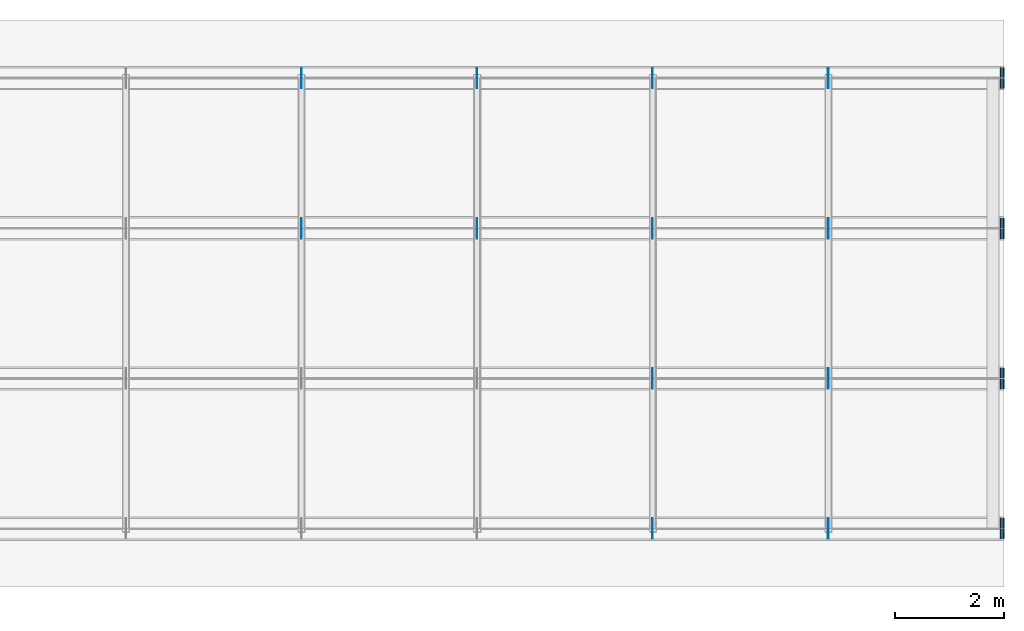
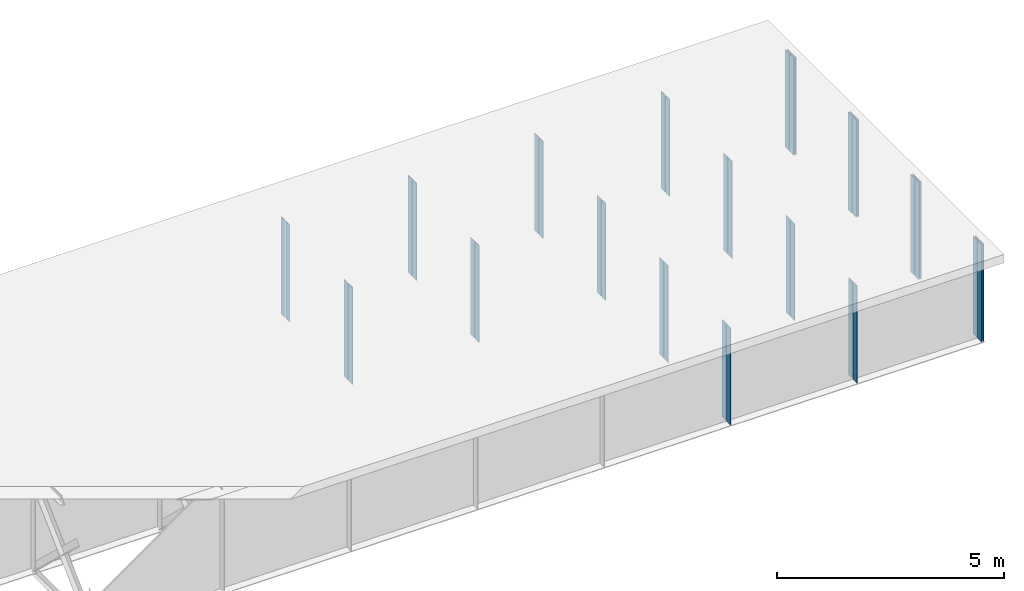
# One storey, part 13 of 13: 40 plates.
"""IFC4 building model written with IfcOpenShell, lengths in metres."""

from ifc_helpers import new_model, si_unit, frame, origin, origin_with_axes, origin_2d_with_axis, place, context, subcontext, project, spatial, rectangle, extrude, element, save


model = new_model("IFC4")

# Units and contexts
model_context = context("Model", 3, precision=1e-05, world=origin())
body_context = subcontext(model_context, "Body", "Model", "MODEL_VIEW")
ifc_project = project(units=[si_unit("LENGTHUNIT", "METRE"), si_unit("AREAUNIT", "SQUARE_METRE"), si_unit("VOLUMEUNIT", "CUBIC_METRE"), si_unit("PLANEANGLEUNIT", "RADIAN")], contexts=[model_context])

# Site, building, storey
site_placement = place(None, origin_with_axes())
site = spatial("IfcSite", under=ifc_project, at=site_placement, Name="Default Site")
building_placement = place(site_placement, origin_with_axes())
building = spatial("IfcBuilding", under=site, at=building_placement, Name="Bridge Structure")
storey_placement = place(building_placement, origin_with_axes())
storey = spatial("IfcBuildingStorey", under=building, at=storey_placement, Name="Superstructure")

# Plates
for number, where, z_axis, x_axis, name in (
    (1, (38.568, -4.02575, -1.305), (0.0, 0.0, 1.0), (1.0, 0.0, 0.0), "Intermediate Stiffener 1"),
    (2, (38.568, -4.2242500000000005, -1.305), (0.0, 0.0, 1.0), (1.0, 0.0, 0.0), "Intermediate Stiffener 1"),
    (3, (41.782000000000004, -4.02575, -1.305), (0.0, 0.0, 1.0), (1.0, 0.0, 0.0), "Intermediate Stiffener 1"),
    (4, (41.782000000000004, -4.2242500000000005, -1.305), (0.0, 0.0, 1.0), (1.0, 0.0, 0.0), "Intermediate Stiffener 1"),
):
    element("IfcPlate", number, at=place(storey_placement, frame(where, z_axis=z_axis, x_axis=x_axis)), inside=storey, Name=name, context=body_context, shape_type="SweptSolid", body=[
        extrude(rectangle(XDim=0.012, YDim=0.1765, at=origin_2d_with_axis()), origin_with_axes(), (0.0, 0.0, 1.0), 2.61),
    ])
for number, where, z_axis, x_axis, name in (
    (5, (44.99, -4.02575, -1.305), (0.0, 0.0, 1.0), (1.0, 0.0, 0.0), "End Stiffener 1"),
    (6, (44.99, -4.2242500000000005, -1.305), (0.0, 0.0, 1.0), (1.0, 0.0, 0.0), "End Stiffener 1"),
    (7, (44.94, -4.02575, -1.305), (0.0, 0.0, 1.0), (1.0, 0.0, 0.0), "End Stiffener 1"),
    (8, (44.94, -4.2242500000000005, -1.305), (0.0, 0.0, 1.0), (1.0, 0.0, 0.0), "End Stiffener 1"),
):
    element("IfcPlate", number, at=place(storey_placement, frame(where, z_axis=z_axis, x_axis=x_axis)), inside=storey, Name=name, context=body_context, shape_type="SweptSolid", body=[
        extrude(rectangle(XDim=0.02, YDim=0.1765, at=origin_2d_with_axis()), origin_with_axes(), (0.0, 0.0, 1.0), 2.61),
    ])
for number, where, z_axis, x_axis, name in (
    (9, (38.568, -1.27575, -1.305), (0.0, 0.0, 1.0), (1.0, 0.0, 0.0), "Intermediate Stiffener 2"),
    (10, (38.568, -1.47425, -1.305), (0.0, 0.0, 1.0), (1.0, 0.0, 0.0), "Intermediate Stiffener 2"),
    (11, (41.782000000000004, -1.27575, -1.305), (0.0, 0.0, 1.0), (1.0, 0.0, 0.0), "Intermediate Stiffener 2"),
    (12, (41.782000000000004, -1.47425, -1.305), (0.0, 0.0, 1.0), (1.0, 0.0, 0.0), "Intermediate Stiffener 2"),
):
    element("IfcPlate", number, at=place(storey_placement, frame(where, z_axis=z_axis, x_axis=x_axis)), inside=storey, Name=name, context=body_context, shape_type="SweptSolid", body=[
        extrude(rectangle(XDim=0.012, YDim=0.1765, at=origin_2d_with_axis()), origin_with_axes(), (0.0, 0.0, 1.0), 2.61),
    ])
for number, where, z_axis, x_axis, name in (
    (13, (44.99, -1.27575, -1.305), (0.0, 0.0, 1.0), (1.0, 0.0, 0.0), "End Stiffener 2"),
    (14, (44.99, -1.47425, -1.305), (0.0, 0.0, 1.0), (1.0, 0.0, 0.0), "End Stiffener 2"),
    (15, (44.94, -1.27575, -1.305), (0.0, 0.0, 1.0), (1.0, 0.0, 0.0), "End Stiffener 2"),
    (16, (44.94, -1.47425, -1.305), (0.0, 0.0, 1.0), (1.0, 0.0, 0.0), "End Stiffener 2"),
):
    element("IfcPlate", number, at=place(storey_placement, frame(where, z_axis=z_axis, x_axis=x_axis)), inside=storey, Name=name, context=body_context, shape_type="SweptSolid", body=[
        extrude(rectangle(XDim=0.02, YDim=0.1765, at=origin_2d_with_axis()), origin_with_axes(), (0.0, 0.0, 1.0), 2.61),
    ])
for number, where, z_axis, x_axis, name in (
    (17, (32.14, 1.47425, -1.305), (0.0, 0.0, 1.0), (1.0, 0.0, 0.0), "Intermediate Stiffener 3"),
    (18, (32.14, 1.27575, -1.305), (0.0, 0.0, 1.0), (1.0, 0.0, 0.0), "Intermediate Stiffener 3"),
    (19, (35.354, 1.47425, -1.305), (0.0, 0.0, 1.0), (1.0, 0.0, 0.0), "Intermediate Stiffener 3"),
    (20, (35.354, 1.27575, -1.305), (0.0, 0.0, 1.0), (1.0, 0.0, 0.0), "Intermediate Stiffener 3"),
    (21, (38.568, 1.47425, -1.305), (0.0, 0.0, 1.0), (1.0, 0.0, 0.0), "Intermediate Stiffener 3"),
    (22, (38.568, 1.27575, -1.305), (0.0, 0.0, 1.0), (1.0, 0.0, 0.0), "Intermediate Stiffener 3"),
    (23, (41.782000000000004, 1.47425, -1.305), (0.0, 0.0, 1.0), (1.0, 0.0, 0.0), "Intermediate Stiffener 3"),
    (24, (41.782000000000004, 1.27575, -1.305), (0.0, 0.0, 1.0), (1.0, 0.0, 0.0), "Intermediate Stiffener 3"),
):
    element("IfcPlate", number, at=place(storey_placement, frame(where, z_axis=z_axis, x_axis=x_axis)), inside=storey, Name=name, context=body_context, shape_type="SweptSolid", body=[
        extrude(rectangle(XDim=0.012, YDim=0.1765, at=origin_2d_with_axis()), origin_with_axes(), (0.0, 0.0, 1.0), 2.61),
    ])
for number, where, z_axis, x_axis, name in (
    (25, (44.99, 1.47425, -1.305), (0.0, 0.0, 1.0), (1.0, 0.0, 0.0), "End Stiffener 3"),
    (26, (44.99, 1.27575, -1.305), (0.0, 0.0, 1.0), (1.0, 0.0, 0.0), "End Stiffener 3"),
    (27, (44.94, 1.47425, -1.305), (0.0, 0.0, 1.0), (1.0, 0.0, 0.0), "End Stiffener 3"),
    (28, (44.94, 1.27575, -1.305), (0.0, 0.0, 1.0), (1.0, 0.0, 0.0), "End Stiffener 3"),
):
    element("IfcPlate", number, at=place(storey_placement, frame(where, z_axis=z_axis, x_axis=x_axis)), inside=storey, Name=name, context=body_context, shape_type="SweptSolid", body=[
        extrude(rectangle(XDim=0.02, YDim=0.1765, at=origin_2d_with_axis()), origin_with_axes(), (0.0, 0.0, 1.0), 2.61),
    ])
for number, where, z_axis, x_axis, name in (
    (29, (32.14, 4.2242500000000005, -1.305), (0.0, 0.0, 1.0), (1.0, 0.0, 0.0), "Intermediate Stiffener 4"),
    (30, (32.14, 4.02575, -1.305), (0.0, 0.0, 1.0), (1.0, 0.0, 0.0), "Intermediate Stiffener 4"),
    (31, (35.354, 4.2242500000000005, -1.305), (0.0, 0.0, 1.0), (1.0, 0.0, 0.0), "Intermediate Stiffener 4"),
    (32, (35.354, 4.02575, -1.305), (0.0, 0.0, 1.0), (1.0, 0.0, 0.0), "Intermediate Stiffener 4"),
    (33, (38.568, 4.2242500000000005, -1.305), (0.0, 0.0, 1.0), (1.0, 0.0, 0.0), "Intermediate Stiffener 4"),
    (34, (38.568, 4.02575, -1.305), (0.0, 0.0, 1.0), (1.0, 0.0, 0.0), "Intermediate Stiffener 4"),
    (35, (41.782000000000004, 4.2242500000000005, -1.305), (0.0, 0.0, 1.0), (1.0, 0.0, 0.0), "Intermediate Stiffener 4"),
    (36, (41.782000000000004, 4.02575, -1.305), (0.0, 0.0, 1.0), (1.0, 0.0, 0.0), "Intermediate Stiffener 4"),
):
    element("IfcPlate", number, at=place(storey_placement, frame(where, z_axis=z_axis, x_axis=x_axis)), inside=storey, Name=name, context=body_context, shape_type="SweptSolid", body=[
        extrude(rectangle(XDim=0.012, YDim=0.1765, at=origin_2d_with_axis()), origin_with_axes(), (0.0, 0.0, 1.0), 2.61),
    ])
for number, where, z_axis, x_axis, name in (
    (37, (44.99, 4.2242500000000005, -1.305), (0.0, 0.0, 1.0), (1.0, 0.0, 0.0), "End Stiffener 4"),
    (38, (44.99, 4.02575, -1.305), (0.0, 0.0, 1.0), (1.0, 0.0, 0.0), "End Stiffener 4"),
    (39, (44.94, 4.2242500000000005, -1.305), (0.0, 0.0, 1.0), (1.0, 0.0, 0.0), "End Stiffener 4"),
    (40, (44.94, 4.02575, -1.305), (0.0, 0.0, 1.0), (1.0, 0.0, 0.0), "End Stiffener 4"),
):
    element("IfcPlate", number, at=place(storey_placement, frame(where, z_axis=z_axis, x_axis=x_axis)), inside=storey, Name=name, context=body_context, shape_type="SweptSolid", body=[
        extrude(rectangle(XDim=0.02, YDim=0.1765, at=origin_2d_with_axis()), origin_with_axes(), (0.0, 0.0, 1.0), 2.61),
    ])

save(model, "model.ifc")
